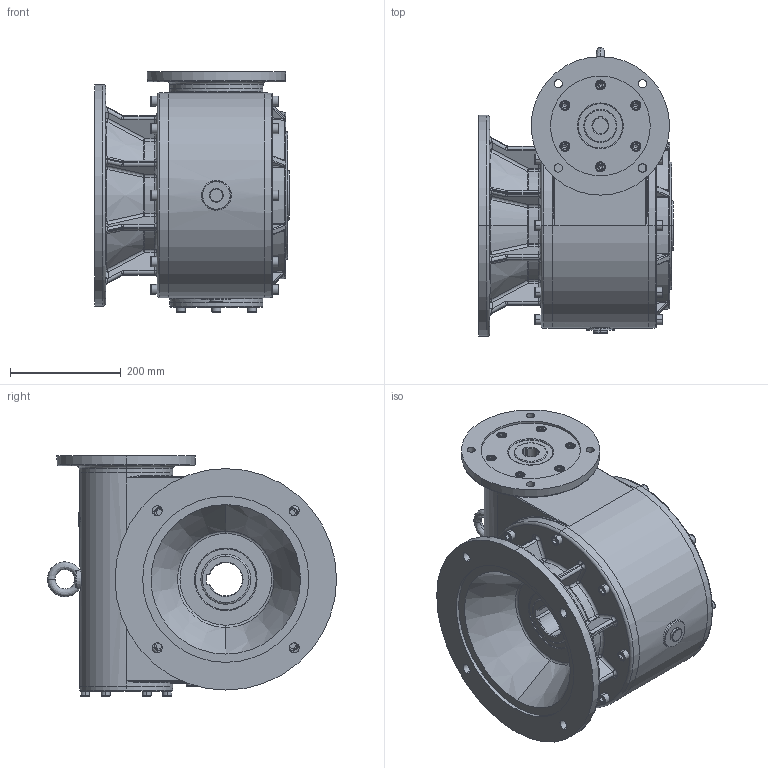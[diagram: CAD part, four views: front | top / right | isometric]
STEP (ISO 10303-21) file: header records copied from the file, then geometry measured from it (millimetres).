
FILE_DESCRIPTION (( 'STEP AP214' ), '1' );
FILE_NAME ('mrt180-ffl-100-215.STEP', '2012-02-20T06:38:20', ( '' ), ( '' ), 'SwSTEP 2.0', 'SolidWorks 2010', '' );
FILE_SCHEMA (( 'AUTOMOTIVE_DESIGN' ));
Length unit declared in the file: millimetre
Products named in the file (7): FF priruba MRT180; Pøíruba MRT180 kulatá _180-215-250; Pøíruba 180FT; Sroub DIN 580_M16; Sroub DIN 912_M10x35; Skøíò180_Skøíò MRT180-AP100(112); mrt180-ffl-100-215
Assembly tree (11 placements, depth 2):
  mrt180-ffl-100-215
    Sroub DIN 912_M10x35  x6
    FF priruba MRT180
    Sroub DIN 580_M16
    Pøíruba 180FT
    Skøíò180_Skøíò MRT180-AP100(112)
    Pøíruba MRT180 kulatá _180-215-250
Bounding box: 352 x 522 x 434 mm (x, y, z)
Volume: 34941062.2 mm3; surface area: 1613298.5 mm2
Topology: 11 solids, 11 shells, 1377 faces, 3124 edges, 1788 vertices
Faces by surface type: torus 346, cylinder 341, plane 261, cone 157, bspline 148, sphere 124
Entity records: 62950 total; most frequent: CARTESIAN_POINT 33222, DIRECTION 6271, ORIENTED_EDGE 5554, AXIS2_PLACEMENT_3D 2791, EDGE_CURVE 2777, CIRCLE 1688, VERTEX_POINT 1617, EDGE_LOOP 1340
